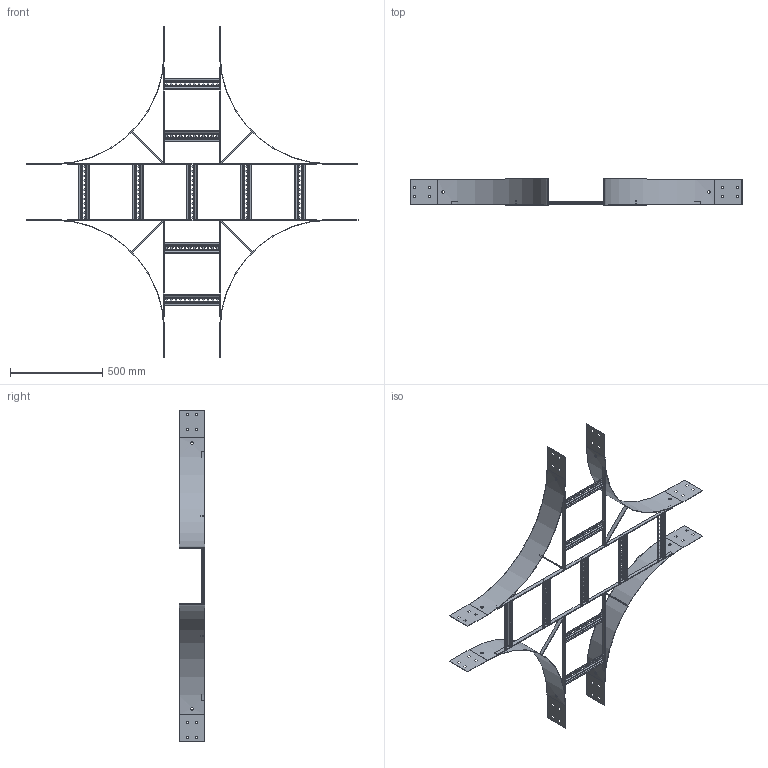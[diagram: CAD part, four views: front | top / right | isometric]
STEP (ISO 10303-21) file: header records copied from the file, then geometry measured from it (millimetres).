
FILE_DESCRIPTION (( 'STEP AP203' ), '1' );
FILE_NAME ('N20C C 3006.STEP', '2024-08-29T00:01:35', ( '' ), ( '' ), 'SwSTEP 2.0', 'SolidWorks 2023', '' );
FILE_SCHEMA (( 'CONFIG_CONTROL_DESIGN' ));
Length unit declared in the file: millimetre
Products named in the file (6): N20C RADIUS PLATE_N1-600 IR; Ladder Tee 20x5 Flat Bar_1345; Ladder Tee 20x5 Flat Bar_240; Ladder Rung_Ladder Rung -  300mm; Ladder Tee 20x5 Flat Bar_518; N20C C 3006
Assembly tree (23 placements, depth 2):
  N20C C 3006
    Ladder Rung_Ladder Rung -  300mm  x9
    Ladder Tee 20x5 Flat Bar_1345  x2
    N20C RADIUS PLATE_N1-600 IR  x4
    Ladder Tee 20x5 Flat Bar_518  x4
    Ladder Tee 20x5 Flat Bar_240  x4
Bounding box: 1800 x 140 x 1800 mm (x, y, z)
Volume: 2238456.3 mm3; surface area: 2072690.9 mm2
Topology: 23 solids, 23 shells, 1070 faces, 2752 edges, 1728 vertices
Faces by surface type: plane 974, cylinder 96
Entity records: 6268 total; most frequent: CARTESIAN_POINT 1188, ORIENTED_EDGE 808, DIRECTION 784, EDGE_CURVE 404, LINE 376, VECTOR 376, VERTEX_POINT 256, AXIS2_PLACEMENT_3D 204
